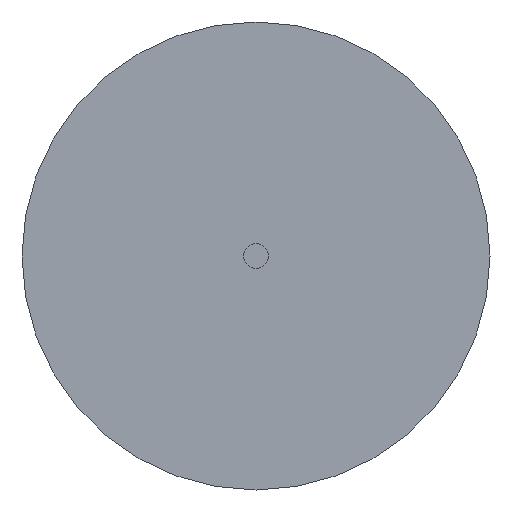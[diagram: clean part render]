
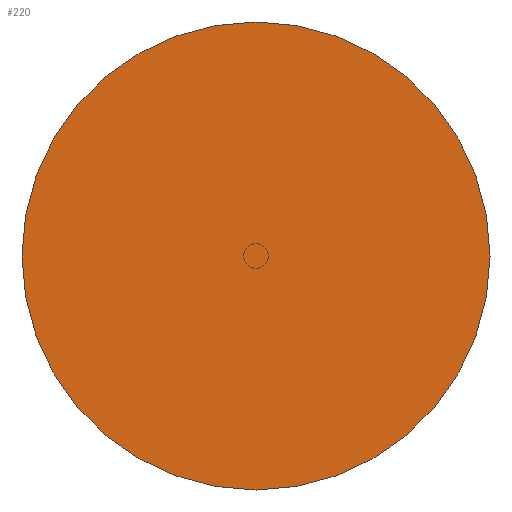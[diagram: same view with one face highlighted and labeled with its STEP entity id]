
A CAD part, front view. The second image highlights one B-rep face of the part: STEP entity #220.
In plain terms, the highlighted planar face has unit normal (0, -1, 0).
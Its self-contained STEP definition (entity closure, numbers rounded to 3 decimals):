
#35 = CIRCLE ( 'NONE', #135, 95. ) ;
#45 = VERTEX_POINT ( 'NONE', #84 ) ;
#84 = CARTESIAN_POINT ( 'NONE',  ( 0., -455., 95. ) ) ;
#93 = CARTESIAN_POINT ( 'NONE',  ( 0., -455., 0. ) ) ;
#135 = AXIS2_PLACEMENT_3D ( 'NONE', #93, #284, #137 ) ;
#137 = DIRECTION ( 'NONE',  ( 0., 0., -1. ) ) ;
#155 = PLANE ( 'NONE',  #542 ) ;
#200 = ORIENTED_EDGE ( 'NONE', *, *, #437, .T. ) ;
#211 = CARTESIAN_POINT ( 'NONE',  ( 0., -455., 0. ) ) ;
#220 = ADVANCED_FACE ( 'NONE', ( #365 ), #155, .T. ) ;
#252 = EDGE_LOOP ( 'NONE', ( #347, #200 ) ) ;
#269 = VERTEX_POINT ( 'NONE', #313 ) ;
#270 = EDGE_CURVE ( 'NONE', #45, #269, #611, .T. ) ;
#284 = DIRECTION ( 'NONE',  ( 0., -1., 0. ) ) ;
#313 = CARTESIAN_POINT ( 'NONE',  ( 0., -455., -95. ) ) ;
#347 = ORIENTED_EDGE ( 'NONE', *, *, #270, .T. ) ;
#363 = DIRECTION ( 'NONE',  ( 0., 0., -1. ) ) ;
#365 = FACE_OUTER_BOUND ( 'NONE', #252, .T. ) ;
#403 = DIRECTION ( 'NONE',  ( 0., -1., 0. ) ) ;
#437 = EDGE_CURVE ( 'NONE', #269, #45, #35, .T. ) ;
#451 = AXIS2_PLACEMENT_3D ( 'NONE', #211, #403, #363 ) ;
#490 = DIRECTION ( 'NONE',  ( 0., 0., -1. ) ) ;
#498 = CARTESIAN_POINT ( 'NONE',  ( 0., -455., 0. ) ) ;
#542 = AXIS2_PLACEMENT_3D ( 'NONE', #498, #550, #490 ) ;
#550 = DIRECTION ( 'NONE',  ( 0., -1., 0. ) ) ;
#611 = CIRCLE ( 'NONE', #451, 95. ) ;
